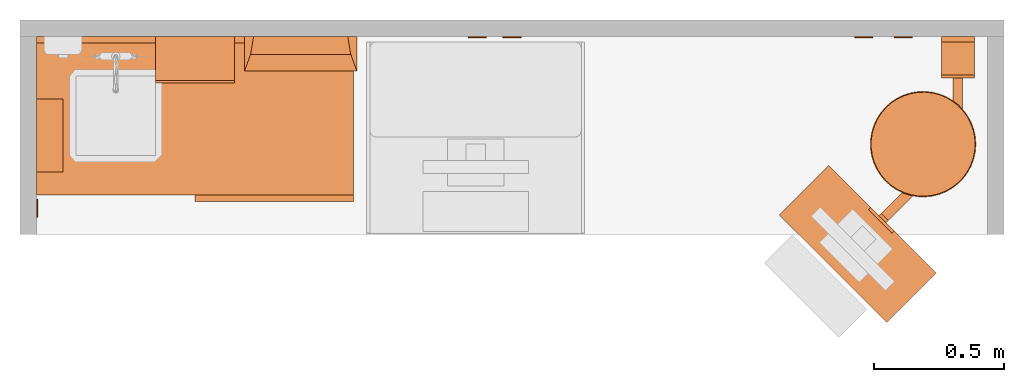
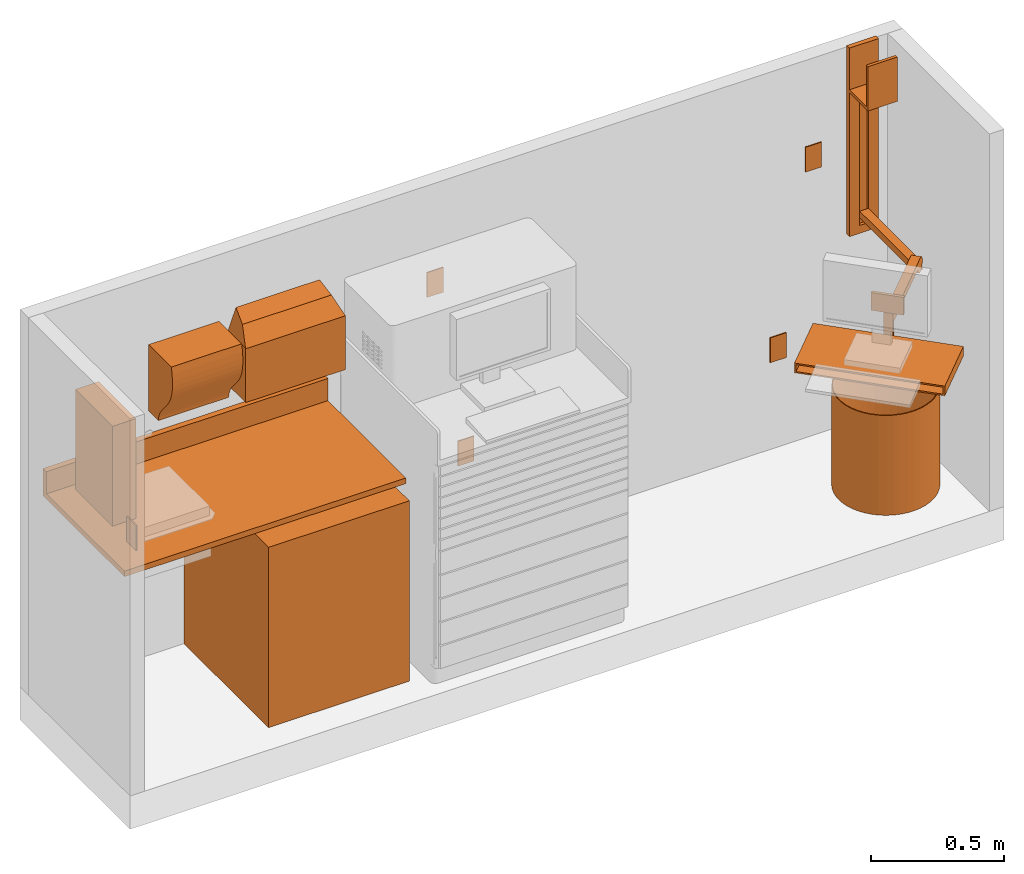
# One storey, part 2 of 3: 12 proxies.
"""IFC2X3 building model written with IfcOpenShell, lengths in feet."""

from ifc_helpers import new_model, entity, si_unit, converted_unit, derived_unit, direction, frame, frame_2d, origin, origin_2d_with_axis, place, context, subcontext, project, spatial, polyline, circle_curve, parameter, trimmed, segment, composite_curve, rectangle, circle, hollow_circle, outline, extrude, faceted_brep, source, transform, mapped, type_object, type_shapes, element, save


model = new_model("IFC2X3")

# Units and contexts
model_context = context("Model", 3, precision=0.0001, world=origin(), true_north=direction((6.12303176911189e-17, 1.0)))
body_context = subcontext(model_context, "Body", "Model", "MODEL_VIEW")
ifc_project = project(units=[converted_unit("LENGTHUNIT", "FOOT", entity("IfcRatioMeasure", 0.3048), si_unit("LENGTHUNIT", "METRE"), dimensions=[1, 0, 0, 0, 0, 0, 0]), converted_unit("AREAUNIT", "SQUARE FOOT", entity("IfcRatioMeasure", 0.09290304), si_unit("AREAUNIT", "SQUARE_METRE"), dimensions=[2, 0, 0, 0, 0, 0, 0]), converted_unit("VOLUMEUNIT", "CUBIC FOOT", entity("IfcRatioMeasure", 0.028316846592), si_unit("VOLUMEUNIT", "CUBIC_METRE"), dimensions=[3, 0, 0, 0, 0, 0, 0]), converted_unit("PLANEANGLEUNIT", "DEGREE", entity("IfcRatioMeasure", 0.0174532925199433), si_unit("PLANEANGLEUNIT", "RADIAN"), dimensions=[0, 0, 0, 0, 0, 0, 0]), si_unit("MASSUNIT", "GRAM", prefix="KILO"), derived_unit("MASSDENSITYUNIT", [(si_unit("MASSUNIT", "GRAM", prefix="KILO"), 1), (si_unit("LENGTHUNIT", "METRE"), -3)]), si_unit("TIMEUNIT", "SECOND"), si_unit("FREQUENCYUNIT", "HERTZ"), si_unit("THERMODYNAMICTEMPERATUREUNIT", "DEGREE_CELSIUS"), derived_unit("THERMALTRANSMITTANCEUNIT", [(si_unit("MASSUNIT", "GRAM", prefix="KILO"), 1), (si_unit("THERMODYNAMICTEMPERATUREUNIT", "KELVIN"), -1), (si_unit("TIMEUNIT", "SECOND"), -3)]), derived_unit("VOLUMETRICFLOWRATEUNIT", [(si_unit("LENGTHUNIT", "METRE"), 3), (si_unit("TIMEUNIT", "SECOND"), -1)]), si_unit("ELECTRICCURRENTUNIT", "AMPERE"), si_unit("ELECTRICVOLTAGEUNIT", "VOLT"), si_unit("POWERUNIT", "WATT"), si_unit("FORCEUNIT", "NEWTON"), si_unit("ILLUMINANCEUNIT", "LUX"), si_unit("LUMINOUSFLUXUNIT", "LUMEN"), si_unit("LUMINOUSINTENSITYUNIT", "CANDELA"), derived_unit("USERDEFINED", [(si_unit("MASSUNIT", "GRAM", prefix="KILO"), -1), (si_unit("LENGTHUNIT", "METRE"), -2), (si_unit("TIMEUNIT", "SECOND"), 3), (si_unit("LUMINOUSFLUXUNIT", "LUMEN"), 1)]), derived_unit("LINEARVELOCITYUNIT", [(si_unit("LENGTHUNIT", "METRE"), 1), (si_unit("TIMEUNIT", "SECOND"), -1)]), si_unit("PRESSUREUNIT", "PASCAL"), derived_unit("USERDEFINED", [(si_unit("LENGTHUNIT", "METRE"), -2), (si_unit("MASSUNIT", "GRAM", prefix="KILO"), 1), (si_unit("TIMEUNIT", "SECOND"), -2)])], contexts=[model_context])

# Site, building, storey, space
site_placement = place(None, origin())
site = spatial("IfcSite", under=ifc_project, at=site_placement, Name="Default", CompositionType="ELEMENT")
building_placement = place(site_placement, origin())
building = spatial("IfcBuilding", under=site, at=building_placement, Name="OUTPATIENT / PACT CLINIC (Ch. 265)", CompositionType="ELEMENT")
storey_placement = place(building_placement, origin())
storey = spatial("IfcBuildingStorey", under=building, at=storey_placement, Name="DATUM", CompositionType="ELEMENT", Elevation=0.0)
space_placement = place(storey_placement, origin())
space = spatial("IfcSpace", under=storey, at=space_placement, Name="RCA06", CompositionType="ELEMENT", InteriorOrExteriorSpace="INTERNAL")

# Proxies
building_element_proxy_type_1 = type_object("IfcBuildingElementProxyType", Name="CT020 - Countertop, Solid Surface - No Opening (1)", PredefinedType="NOTDEFINED")
shared_shape_1 = source(origin(), body_context, "Body", "SweptSolid", [
    extrude(rectangle(XDim=4.0, YDim=0.083333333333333, at=frame_2d((0.0, -5.55111512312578e-17), x_axis=(1.0, 0.0))), frame((0.0, 0.958333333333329, 0.0833333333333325)), (0.0, 0.0, 1.0), 0.333333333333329),
    extrude(rectangle(XDim=4.0, YDim=2.0, at=frame_2d((3.33066907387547e-16, 0.0), x_axis=(1.0, 0.0))), origin(), (0.0, 0.0, 1.0), 0.0833333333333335),
])
type_shapes(building_element_proxy_type_1, [shared_shape_1])
proxy_1_placement = place(space_placement, frame((26.6274838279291, -855.567722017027, 2.91666666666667)))
element("IfcBuildingElementProxy", 1, at=proxy_1_placement, inside=space, type_object=building_element_proxy_type_1, Name="CT020 - Countertop, Solid Surface - No Opening (1):CT020 - Countertop, Solid Surface - No Opening (1)", ObjectType="CT020 - Countertop, Solid Surface - No Opening (1)", context=body_context, shape_type="MappedRepresentation", body=[
    mapped(shared_shape_1, transform((0.0, 0.0, 0.0), scale=1.0)),
])
building_element_proxy_type_2 = type_object("IfcBuildingElementProxyType", Name="F2000 - Basket, Wastepaper", PredefinedType="NOTDEFINED")
shared_shape_2 = source(origin(), body_context, "Body", "SweptSolid", [
    extrude(circle(Radius=0.666666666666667, at=frame_2d((0.0, -1.07702971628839e-15), x_axis=(1.0, 0.0))), origin(), (0.0, 0.0, 1.0), 0.0104166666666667),
    extrude(hollow_circle(Radius=0.666666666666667, WallThickness=0.0104166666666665, at=frame_2d((0.0, -1.07702971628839e-15), x_axis=(1.0, 0.0))), frame((0.0, 0.0, 0.0104166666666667)), (0.0, 0.0, 1.0), 1.48958333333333),
])
type_shapes(building_element_proxy_type_2, [shared_shape_2])
proxy_2_placement = place(space_placement, frame((35.8149838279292, -855.92622765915, 0.0)))
element("IfcBuildingElementProxy", 2, at=proxy_2_placement, inside=space, type_object=building_element_proxy_type_2, Name="F2000 - Basket, Wastepaper:F2000 - Basket, Wastepaper", ObjectType="F2000 - Basket, Wastepaper", context=body_context, shape_type="MappedRepresentation", body=[
    mapped(shared_shape_2, transform((0.0, 0.0, 0.0), scale=1.0)),
])
building_element_proxy_type_3 = type_object("IfcBuildingElementProxyType", Name="A5082 - Dispenser, Paper Towel, Sensor, Hands Free", PredefinedType="NOTDEFINED")
shared_shape_3 = source(origin(), body_context, "Body", "SweptSolid", [
    extrude(outline(polyline([(-0.394840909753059, -0.5716804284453), (0.162901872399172, -0.5716804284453), (0.181242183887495, -0.466986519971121), (0.189922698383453, -0.373421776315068), (0.189954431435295, -0.2899834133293), (0.182348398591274, -0.215668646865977), (0.168115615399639, -0.149474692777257), (0.148267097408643, -0.0903987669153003), (0.123813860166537, -0.0374380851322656), (0.095766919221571, 0.0104101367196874), (0.0651372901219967, 0.0541486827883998), (0.0329359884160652, 0.0947803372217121), (0.000174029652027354, 0.133307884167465), (-0.0321375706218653, 0.1707341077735), (-0.0629877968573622, 0.208061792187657), (-0.0913656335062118, 0.246293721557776), (-0.116260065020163, 0.2864326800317), (-0.136660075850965, 0.329481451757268), (-0.151554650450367, 0.376442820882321), (-0.159932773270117, 0.4283195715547), (-0.394840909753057, 0.428319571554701), (-0.394840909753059, -0.5716804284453)])), frame((0.0, -0.394840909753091, 0.428319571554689), z_axis=(1.0, 0.0, 0.0), x_axis=(0.0, -1.0, 0.0)), (0.0, 0.0, 1.0), 1.0),
])
type_shapes(building_element_proxy_type_3, [shared_shape_3])
proxy_3_placement = place(space_placement, frame((26.1274838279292, -854.567722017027, 3.66666666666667)))
element("IfcBuildingElementProxy", 3, at=proxy_3_placement, inside=space, type_object=building_element_proxy_type_3, Name="A5082 - Dispenser, Paper Towel, Sensor, Hands Free:A5082 - Dispenser, Paper Towel, Sensor, Hands Free", ObjectType="A5082 - Dispenser, Paper Towel, Sensor, Hands Free", context=body_context, shape_type="MappedRepresentation", body=[
    mapped(shared_shape_3, transform((0.0, 0.0, 0.0), scale=1.0)),
])
building_element_proxy_type_4 = type_object("IfcBuildingElementProxyType", Name="R6200 - Refrigerator, U-C or F-S, 5 Cu Ft (1)", PredefinedType="NOTDEFINED")
shared_shape_4 = source(origin(), body_context, "Body", "SweptSolid", [
    extrude(rectangle(XDim=0.166666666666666, YDim=0.229166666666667, at=frame_2d((0.0, -5.55111512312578e-17), x_axis=(1.0, 0.0))), frame((0.885416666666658, -0.833333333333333, 0.083333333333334), z_axis=(0.0, 0.0, 1.0), x_axis=(0.0, 1.0, 0.0)), (0.0, 0.0, 1.0), 0.0625),
    extrude(outline(polyline([(-0.0729036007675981, -0.642218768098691), (0.0520963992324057, -0.642218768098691), (0.0520963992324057, -0.600552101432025), (-0.0312891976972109, -0.600552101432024), (-0.0312891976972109, 0.600578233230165), (0.0520963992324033, 0.600578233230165), (0.0520963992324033, 0.642192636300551), (-0.0729036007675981, 0.642192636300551), (-0.0729036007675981, -0.642218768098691)])), frame((-0.833333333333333, -0.968763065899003, 1.79530736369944), z_axis=(1.0, 0.0, 0.0), x_axis=(0.0, 1.0, 0.0)), (0.0, 0.0, 1.0), 0.125),
    extrude(rectangle(XDim=0.431326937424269, YDim=0.229166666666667, at=frame_2d((-5.55111512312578e-17, 5.55111512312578e-17), x_axis=(1.0, 0.0))), frame((0.885416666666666, -0.701003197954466, 2.64583333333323), z_axis=(0.0, 0.0, 1.0), x_axis=(0.0, 1.0, 0.0)), (0.0, 0.0, 1.0), 0.0625),
    extrude(rectangle(XDim=0.0416666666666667, YDim=1.91666666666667, at=origin_2d_with_axis()), frame((0.0, -0.770833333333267, 0.219073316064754), z_axis=(0.0, 0.0, 1.0), x_axis=(0.0, 1.0, 0.0)), (0.0, 0.0, 1.0), 2.36426001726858),
    extrude(rectangle(XDim=0.125, YDim=2.0, at=frame_2d((5.55111512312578e-17, 0.0), x_axis=(1.0, 0.0))), frame((0.0, -0.8541666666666, 0.145833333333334), z_axis=(0.0, 0.0, 1.0), x_axis=(0.0, 1.0, 0.0)), (0.0, 0.0, 1.0), 2.4999999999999),
    extrude(rectangle(XDim=2.0, YDim=1.7916666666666, at=origin_2d_with_axis()), frame((0.0, 0.145833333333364, 0.0833333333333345), z_axis=(0.0, 0.0, 1.0), x_axis=(-1.0, 0.0, 0.0)), (0.0, 0.0, 1.0), 2.5624999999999),
    extrude(circle(Radius=0.104166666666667, at=frame_2d((2.71926214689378e-32, -2.22044604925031e-16), x_axis=(1.0, 0.0))), frame((-0.760096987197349, -0.548497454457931, 0.0), z_axis=(0.0, 0.0, 1.0), x_axis=(-1.0, 0.0, 0.0)), (0.0, 0.0, 1.0), 0.0833333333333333),
    extrude(circle(Radius=0.104166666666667, at=frame_2d((0.0, -2.22044604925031e-16), x_axis=(1.0, 0.0))), frame((0.760096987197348, -0.548497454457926, 0.0)), (0.0, 0.0, 1.0), 0.0833333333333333),
    extrude(circle(Radius=0.104166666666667, at=frame_2d((2.71926214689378e-32, -2.22044604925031e-16), x_axis=(1.0, 0.0))), frame((-0.760096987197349, 0.82650254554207, 0.0), z_axis=(0.0, 0.0, 1.0), x_axis=(-1.0, 0.0, 0.0)), (0.0, 0.0, 1.0), 0.0833333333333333),
    extrude(circle(Radius=0.104166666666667, at=frame_2d((0.0, -2.22044604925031e-16), x_axis=(1.0, 0.0))), frame((0.760096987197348, 0.826502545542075, 0.0)), (0.0, 0.0, 1.0), 0.0833333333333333),
    extrude(rectangle(XDim=2.08333333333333, YDim=2.0, at=frame_2d((8.88178419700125e-16, 0.2), x_axis=(1.0, 0.0))), frame((-0.199999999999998, 0.0, 0.0), z_axis=(0.0, 0.0, 1.0), x_axis=(0.0, -1.0, 0.0)), (0.0, 0.0, 1.0), 2.7083333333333),
])
type_shapes(building_element_proxy_type_4, [shared_shape_4])
proxy_4_placement = place(space_placement, frame((27.6274838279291, -855.609388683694, 0.0)))
element("IfcBuildingElementProxy", 4, at=proxy_4_placement, inside=space, type_object=building_element_proxy_type_4, Name="R6200 - Refrigerator, U-C or F-S, 5 Cu Ft (1):R6200 - Refrigerator, U-C or F-S, 5 Cu Ft (1)", ObjectType="R6200 - Refrigerator, U-C or F-S, 5 Cu Ft (1)", context=body_context, shape_type="MappedRepresentation", body=[
    mapped(shared_shape_4, transform((0.0, 0.0, 0.0), scale=1.0)),
])
building_element_proxy_type_5 = type_object("IfcBuildingElementProxyType", Name="M1803 - Workstation, Computer, Wall Mounted", PredefinedType="NOTDEFINED")
shared_shape_5 = source(origin(), body_context, "Body", "SweptSolid", [
    extrude(circle(Radius=0.104166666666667, at=frame_2d((1.0547118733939e-15, 3.336446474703e-16), x_axis=(1.0, 0.0))), frame((-0.0810226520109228, -1.34888430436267, 0.333333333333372), z_axis=(0.707106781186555, -0.70710678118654, 0.0), x_axis=(0.0, 0.0, 1.0)), (0.0, 0.0, 1.0), 0.125000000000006),
    extrude(outline(composite_curve([segment(polyline([(0.0520833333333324, -0.592708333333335), (0.0520833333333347, 0.644791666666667)]), True, "CONTINUOUS"), segment(polyline([(0.0520833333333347, 0.644791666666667), (-0.0520833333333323, 0.644791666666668)]), True, "CONTINUOUS"), segment(polyline([(-0.0520833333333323, 0.644791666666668), (-0.0520833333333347, -0.696875)]), True, "CONTINUOUS"), segment(trimmed(circle_curve(frame_2d((0.0520833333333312, -0.696875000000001), x_axis=(1.0, 0.0)), 0.104166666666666), [parameter(89.9999999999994)], [parameter(180.0)], True, "PARAMETER"), False, "CONTINUOUS")], self_intersect=False)), frame((-0.0624999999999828, -0.711458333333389, 0.281250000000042), z_axis=(-1.0, 0.0, 0.0), x_axis=(0.0, 0.0, 1.0)), (0.0, 0.0, -1.0), 0.125000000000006),
    extrude(outline(composite_curve([segment(polyline([(0.0520833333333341, -0.651041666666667), (0.0520833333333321, 0.598958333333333)]), True, "CONTINUOUS"), segment(polyline([(0.0520833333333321, 0.598958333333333), (-0.0520833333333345, 0.598958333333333)]), True, "CONTINUOUS"), segment(polyline([(-0.0520833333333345, 0.598958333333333), (-0.0520833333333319, -0.546875)]), True, "CONTINUOUS"), segment(trimmed(circle_curve(frame_2d((-0.0520833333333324, -0.651041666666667), x_axis=(1.0, 0.0)), 0.104166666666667), [parameter(1.01777749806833e-13)], [parameter(90.0000000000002)], True, "PARAMETER"), False, "CONTINUOUS")], self_intersect=False)), frame((-0.452990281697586, -1.89762862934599, 0.385416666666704), z_axis=(0.707106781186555, -0.70710678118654, 0.0), x_axis=(0.0, 0.0, 1.0)), (0.0, 0.0, -1.0), 0.125000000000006),
    extrude(outline(polyline([(-0.0729166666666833, -0.95833333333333), (0.0729166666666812, -0.95833333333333), (0.0729166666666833, 0.95833333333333), (-0.0729166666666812, 0.95833333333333), (-0.0729166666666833, -0.95833333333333)]), holes=[polyline([(-0.05208333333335, -0.937499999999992), (-0.052083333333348, 0.937499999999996), (0.0520833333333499, 0.937499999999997), (0.0520833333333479, -0.937499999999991), (-0.05208333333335, -0.937499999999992)])]), frame((-1.5747857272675, -2.93103572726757, 0.0729166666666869), z_axis=(0.707106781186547, 0.707106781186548, 0.0), x_axis=(0.0, 0.0, -1.0)), (0.0, 0.0, 1.0), 0.883333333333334),
    extrude(rectangle(XDim=0.0666666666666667, YDim=0.416666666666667, at=origin_2d_with_axis()), frame((0.0, -0.0333333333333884, 0.0), z_axis=(0.0, 0.0, 1.0), x_axis=(0.0, 1.0, 0.0)), (0.0, 0.0, 1.0), 0.11949518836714),
    extrude(outline(polyline([(-0.208333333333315, -0.0270833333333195), (-0.0625000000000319, -0.0270833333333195), (-0.0625000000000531, 0.014583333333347), (0.0625000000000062, 0.014583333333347), (0.0625000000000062, -0.0270833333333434), (0.208333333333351, -0.0270833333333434), (0.208333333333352, 0.0395833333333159), (-0.208333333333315, 0.0395833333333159), (-0.208333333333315, -0.0270833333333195)])), frame((0.0, -0.0395833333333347, 0.119495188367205)), (0.0, 0.0, 1.0), 2.0471714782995),
    extrude(outline(polyline([(-0.194444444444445, 0.125), (0.430555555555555, 0.125), (0.430555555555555, 0.166666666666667), (-0.236111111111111, 0.166666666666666), (-0.236111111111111, -0.291666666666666), (-0.194444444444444, -0.291666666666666), (-0.194444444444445, 0.125)])), frame((-0.208333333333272, -0.358333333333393, 2.40277777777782), z_axis=(1.0, 0.0, 0.0), x_axis=(0.0, 0.0, 1.0)), (0.0, 0.0, 1.0), 0.416666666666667),
    extrude(rectangle(XDim=0.0416666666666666, YDim=0.416666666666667, at=frame_2d((4.16333634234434e-17, -5.55111512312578e-17), x_axis=(1.0, 0.0))), frame((-0.964906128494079, -2.3211561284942, 0.503601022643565), z_axis=(0.0, 0.0, 1.0), x_axis=(0.707106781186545, 0.70710678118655, 0.0)), (0.0, 0.0, 1.0), 0.267232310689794),
    extrude(rectangle(XDim=0.125000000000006, YDim=0.0416666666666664, at=frame_2d((-1.94289029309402e-16, 1.16226472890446e-16), x_axis=(1.0, 0.0))), frame((-0.935443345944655, -2.29169334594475, 0.0), z_axis=(0.0, 0.0, 1.0), x_axis=(-0.707106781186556, 0.70710678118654, 0.0)), (0.0, 0.0, 1.0), 0.666666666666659),
    extrude(rectangle(XDim=0.0666666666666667, YDim=0.416666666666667, at=origin_2d_with_axis()), frame((0.0, -0.0333333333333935, 2.16666666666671), z_axis=(0.0, 0.0, 1.0), x_axis=(0.0, 1.0, 0.0)), (0.0, 0.0, 1.0), 0.666666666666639),
])
type_shapes(building_element_proxy_type_5, [shared_shape_5])
proxy_5_placement = place(space_placement, frame((36.2525494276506, -854.567722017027, 2.85416666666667)))
element("IfcBuildingElementProxy", 5, at=proxy_5_placement, inside=space, type_object=building_element_proxy_type_5, Name="M1803 - Workstation, Computer, Wall Mounted:M1803 - Workstation, Computer, Wall Mounted", ObjectType="M1803 - Workstation, Computer, Wall Mounted", context=body_context, shape_type="MappedRepresentation", body=[
    mapped(shared_shape_5, transform((0.0, 0.0, 0.0), scale=1.0)),
])
building_element_proxy_type_6 = type_object("IfcBuildingElementProxyType", Name="Telephone/Data", PredefinedType="NOTDEFINED")
shared_shape_6 = source(origin(), body_context, "Body", "SweptSolid", [
    extrude(rectangle(XDim=0.0156249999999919, YDim=0.229166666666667, at=origin_2d_with_axis()), frame((0.0, 0.111979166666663, 0.0), z_axis=(0.0, 0.0, 1.0), x_axis=(0.0, 1.0, 0.0)), (0.0, 0.0, 1.0), 0.375),
])
type_shapes(building_element_proxy_type_6, [shared_shape_6])
for number, where, z_axis, x_axis, name in (
    (6, (30.1899838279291, -854.46355535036, 4.0), (0.0, 0.0, 1.0), (-1.0, 0.0, 0.0), "Outlet, Communications:Telephone/Data"),
    (7, (35.5649838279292, -854.46355535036, 4.0), (0.0, 0.0, 1.0), (-1.0, 0.0, 0.0), "Outlet, Communications:Telephone/Data"),
):
    element("IfcBuildingElementProxy", number, at=place(space_placement, frame(where, z_axis=z_axis, x_axis=x_axis)), inside=space, type_object=building_element_proxy_type_6, Name=name, ObjectType="Telephone/Data", context=body_context, shape_type="MappedRepresentation", body=[
        mapped(shared_shape_6, transform((0.0, 0.0, 0.0), scale=1.0)),
    ])
building_element_proxy_type_7 = type_object("IfcBuildingElementProxyType", Name="Duplex", PredefinedType="NOTDEFINED")
shared_shape_7 = source(origin(), body_context, "Body", "SweptSolid", [
    extrude(rectangle(XDim=0.0156249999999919, YDim=0.229166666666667, at=origin_2d_with_axis()), frame((0.0, 0.111979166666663, 0.0), z_axis=(0.0, 0.0, 1.0), x_axis=(0.0, 1.0, 0.0)), (0.0, 0.0, 1.0), 0.37500000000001),
])
type_shapes(building_element_proxy_type_7, [shared_shape_7])
for number, where, z_axis, x_axis, name in (
    (8, (35.0649838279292, -854.46355535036, 1.3125), (0.0, 0.0, 1.0), (-1.0, 0.0, 0.0), "Outlet, Duplex, Wall:Duplex"),
    (9, (30.6274838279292, -854.46355535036, 1.3125), (0.0, 0.0, 1.0), (-1.0, 0.0, 0.0), "Outlet, Duplex, Wall:Duplex"),
):
    element("IfcBuildingElementProxy", number, at=place(space_placement, frame(where, z_axis=z_axis, x_axis=x_axis)), inside=space, type_object=building_element_proxy_type_7, Name=name, ObjectType="Duplex", context=body_context, shape_type="MappedRepresentation", body=[
        mapped(shared_shape_7, transform((0.0, 0.0, 0.0), scale=1.0)),
    ])
building_element_proxy_type_8 = type_object("IfcBuildingElementProxyType", Name="A5108 - Waste Disposal Unit, Sharps 17\"x 13\"", PredefinedType="NOTDEFINED")
shared_shape_8 = source(origin(), body_context, "Body", "Brep", [
    faceted_brep([(0.70833333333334, 0.0, 0.0), (-0.708333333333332, 0.0, 0.0), (-0.708333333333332, 0.437500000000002, 0.0), (0.70833333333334, 0.437500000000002, 0.0), (0.70833333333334, 0.437500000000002, 0.810989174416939), (0.70833333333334, 0.0025667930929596, 0.810989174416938), (0.70833333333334, 0.0, 0.808422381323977), (-0.708333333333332, 0.437500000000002, 0.810989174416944), (-0.594042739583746, 0.437500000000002, 1.125), (0.594042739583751, 0.437500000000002, 1.125), (-0.708333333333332, 0.0, 0.808422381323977), (-0.708333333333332, 0.00256679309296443, 0.810989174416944), (0.632497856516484, 0.210923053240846, 1.01934543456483), (-0.632497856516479, 0.210923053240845, 1.01934543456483)], [[[0, 1, 2, 3]], [[0, 3, 4, 5, 6]], [[3, 2, 7, 8, 9, 4]], [[2, 1, 10, 11, 7]], [[1, 0, 6, 10]], [[10, 6, 5, 12, 13, 11]], [[12, 9, 8, 13]], [[5, 4, 9, 12]], [[8, 7, 11, 13]]]),
])
type_shapes(building_element_proxy_type_8, [shared_shape_8])
proxy_6_placement = place(storey_placement, frame((27.9608171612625, -855.005222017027, 3.66666666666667)))
element("IfcBuildingElementProxy", 10, at=proxy_6_placement, inside=storey, type_object=building_element_proxy_type_8, Name="A5108 - Waste Disposal Unit, Sharps:A5108 - Waste Disposal Unit, Sharps 17\"x 13\"", ObjectType="A5108 - Waste Disposal Unit, Sharps 17\"x 13\"", context=body_context, shape_type="MappedRepresentation", body=[
    mapped(shared_shape_8, transform((0.0, 0.0, 0.0), scale=1.0)),
])
building_element_proxy_type_9 = type_object("IfcBuildingElementProxyType", Name="Duplex", PredefinedType="NOTDEFINED")
shared_shape_9 = source(origin(), body_context, "Body", "SweptSolid", [
    extrude(rectangle(XDim=0.0156249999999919, YDim=0.229166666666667, at=origin_2d_with_axis()), frame((0.0, 0.111979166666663, 0.0), z_axis=(0.0, 0.0, 1.0), x_axis=(0.0, 1.0, 0.0)), (0.0, 0.0, 1.0), 0.37500000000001),
])
type_shapes(building_element_proxy_type_9, [shared_shape_9])
proxy_7_placement = place(space_placement, frame((24.5233171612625, -856.734388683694, 3.47916666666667), z_axis=(0.0, 0.0, 1.0), x_axis=(0.0, -1.0, 0.0)))
element("IfcBuildingElementProxy", 11, at=proxy_7_placement, inside=space, type_object=building_element_proxy_type_9, Name="Outlet, Duplex, Wall:Duplex", ObjectType="Duplex", context=body_context, shape_type="MappedRepresentation", body=[
    mapped(shared_shape_9, transform((0.0, 0.0, 0.0), scale=1.0)),
])
building_element_proxy_type_10 = type_object("IfcBuildingElementProxyType", Name="A5107 - Dispenser, Glove, Surgical-Examination, Wall Mntd 10\"x 4\"", PredefinedType="NOTDEFINED")
shared_shape_10 = source(origin(), body_context, "Body", "SweptSolid", [
    extrude(rectangle(XDim=0.916666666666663, YDim=0.333333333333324, at=frame_2d((0.0, 2.77555756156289e-17), x_axis=(1.0, 0.0))), frame((0.0, -0.166666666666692, 0.0), z_axis=(0.0, 0.0, 1.0), x_axis=(-1.0, 0.0, 0.0)), (0.0, 0.0, 1.0), 1.5),
])
type_shapes(building_element_proxy_type_10, [shared_shape_10])
proxy_8_placement = place(space_placement, frame((24.6274838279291, -855.817722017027, 3.5), z_axis=(0.0, 0.0, 1.0), x_axis=(0.0, 1.0, 0.0)))
element("IfcBuildingElementProxy", 12, at=proxy_8_placement, inside=space, type_object=building_element_proxy_type_10, Name="A5107 - Dispenser, Glove, Surgical-Examination, Wall Mntd:A5107 - Dispenser, Glove, Surgical-Examination, Wall Mntd 10\"x 4\"", ObjectType="A5107 - Dispenser, Glove, Surgical-Examination, Wall Mntd 10\"x 4\"", context=body_context, shape_type="MappedRepresentation", body=[
    mapped(shared_shape_10, transform((0.0, 0.0, 0.0), scale=1.0)),
])

save(model, "model.ifc")
